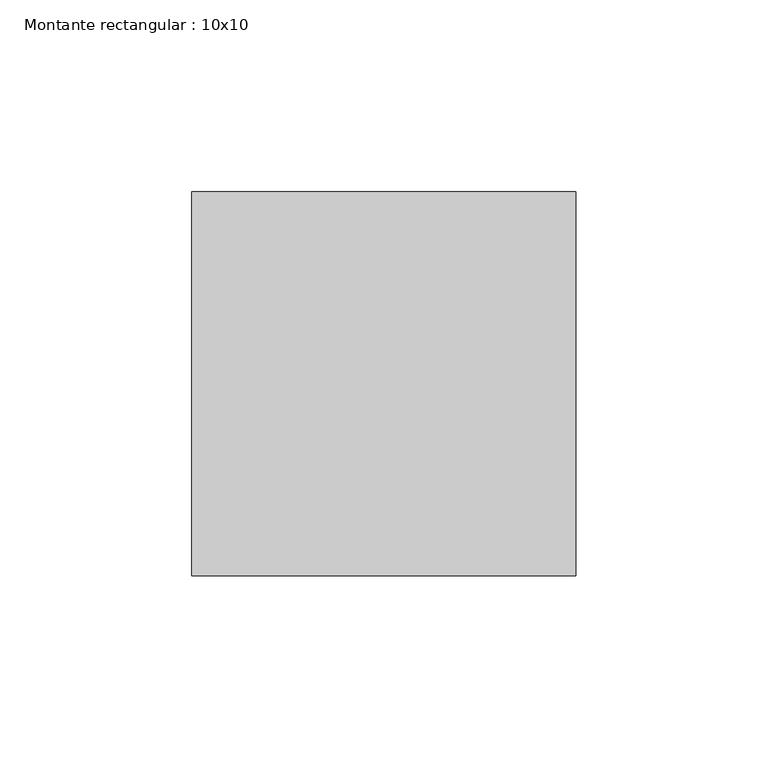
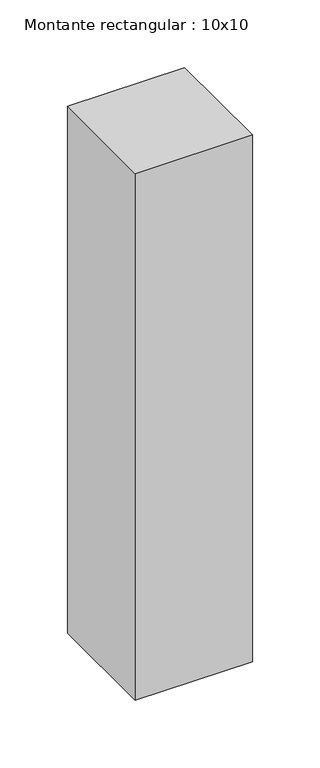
"""IFC4 building model written with IfcOpenShell, lengths in millimetres: member geometry, Montante rectangular : 10x10."""

from ifc_helpers import new_model, si_unit, frame, origin, place, context, project, spatial, polyline, outline, extrude, source, transform, mapped, element, save


def montante_rectangular_10x10_306b7be8(model_context):
    return source(origin(), model_context, "Body", "SweptSolid", [
        extrude(outline(polyline([(0.0, 50.0), (0.0, -50.0), (-100.0, -50.0), (-100.0, 50.0), (0.0, 50.0)])), frame((0.0, 0.0, -475.0), z_axis=(0.0, 0.0, 1.0), x_axis=(1.0, 0.0, 0.0)), (0.0, 0.0, 1.0), 475.0),
    ])


if __name__ == "__main__":
    model = new_model("IFC4")
    model_context = context("Model", 3, world=origin())
    ifc_project = project(units=[si_unit("LENGTHUNIT", "METRE", prefix="MILLI")], contexts=[model_context])
    site = spatial("IfcSite", under=ifc_project)
    building = spatial("IfcBuilding", under=site)
    placement = place(None, origin())
    montante_rectangular_10x10_shape = montante_rectangular_10x10_306b7be8(model_context)
    element("IfcMember", 1, ObjectType="Montante rectangular : 10x10", at=placement, inside=building, context=model_context, shape_type="MappedRepresentation", body=[
        mapped(montante_rectangular_10x10_shape, transform((0.0, 0.0, 0.0), x_axis=(1.0, 0.0, 0.0), y_axis=(0.0, 1.0, 0.0), z_axis=(0.0, 0.0, 1.0))),
    ])
    save(model, "model.ifc")
